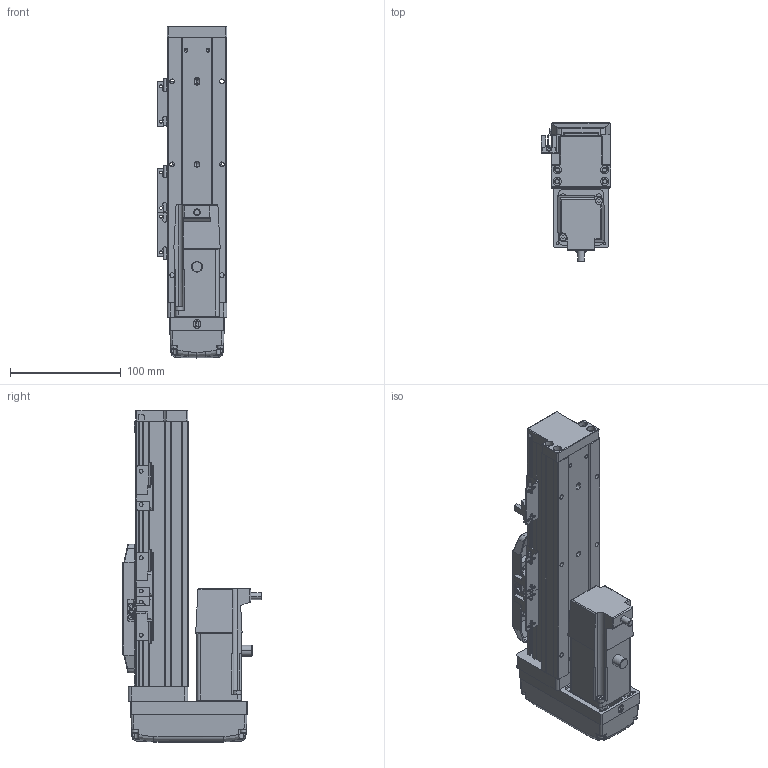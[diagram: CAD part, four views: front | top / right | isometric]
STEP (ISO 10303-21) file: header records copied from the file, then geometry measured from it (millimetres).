
FILE_DESCRIPTION (( 'STEP AP203' ), '1' );
FILE_NAME ('2.STEP', '2021-01-04T05:46:46', ( '' ), ( '' ), 'SwSTEP 2.0', 'SolidWorks 2016', '' );
FILE_SCHEMA (( 'CONFIG_CONTROL_DESIGN' ));
Length unit declared in the file: millimetre
Products named in the file (10): CTH5-BM-菁釱; CTH5-BM-02; CTH5-BM-05; CTH5-BM-T10; CTH5-BM-07; CTH5-BM-HZ; CTH5-BM-03; PM-Y45; 2; CTH5-BM-01
Assembly tree (14 placements, depth 2):
  2
    CTH5-BM-菁釱
    CTH5-BM-01
    CTH5-BM-02
    CTH5-BM-03
    CTH5-BM-05  x2
    CTH5-BM-07  x3
    CTH5-BM-HZ
    CTH5-BM-T10
    PM-Y45  x3
Bounding box: 63 x 125.95 x 299.9 mm (x, y, z)
Volume: 805256.9 mm3; surface area: 192987.7 mm2
Topology: 30 solids, 30 shells, 1502 faces, 3933 edges, 2490 vertices
Faces by surface type: plane 699, cylinder 553, cone 152, bspline 70, torus 24, sphere 4
Entity records: 44249 total; most frequent: CARTESIAN_POINT 12075, ORIENTED_EDGE 6550, DIRECTION 6322, EDGE_CURVE 3275, AXIS2_PLACEMENT_3D 2239, VERTEX_POINT 2090, LINE 1844, VECTOR 1844
